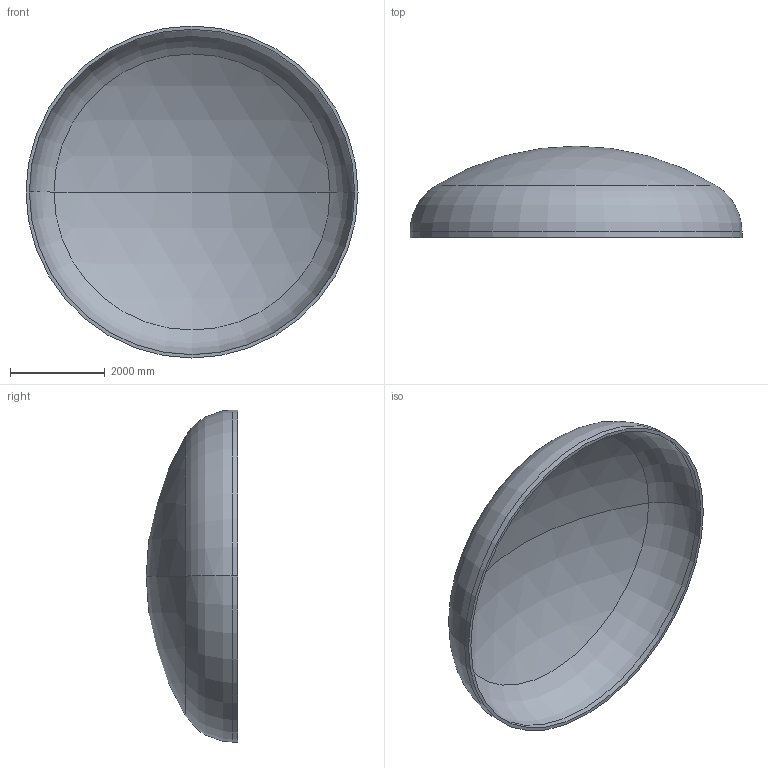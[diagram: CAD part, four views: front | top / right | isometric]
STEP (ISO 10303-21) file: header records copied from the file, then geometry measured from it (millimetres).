
FILE_DESCRIPTION (( 'STEP AP203' ), '1' );
FILE_NAME ('DIN 28013 Korbbogenform_-_Boden DIN 28013 - 7000 x 120 - I - s=70.step', '2016-07-04T10:48:49', ( '' ), ( '' ), 'SwSTEP 2.0', 'SolidWorks 2013', '' );
FILE_SCHEMA (( 'CONFIG_CONTROL_DESIGN' ));
Length unit declared in the file: millimetre
Products named in the file (1): DIN 28013 Korbbogenform_-_Boden DIN 28013 - 7000 x 120 - I - s=70
Bounding box: 7000 x 1928.92 x 7000 mm (x, y, z)
Volume: 3866236202 mm3; surface area: 111998098.2 mm2
Topology: 1 solids, 1 shells, 13 faces, 24 edges, 14 vertices
Faces by surface type: torus 4, cylinder 4, sphere 4, plane 1
Entity records: 407 total; most frequent: DIRECTION 72, CARTESIAN_POINT 52, ORIENTED_EDGE 48, AXIS2_PLACEMENT_3D 34, EDGE_CURVE 24, CIRCLE 20, VERTEX_POINT 14, EDGE_LOOP 14
